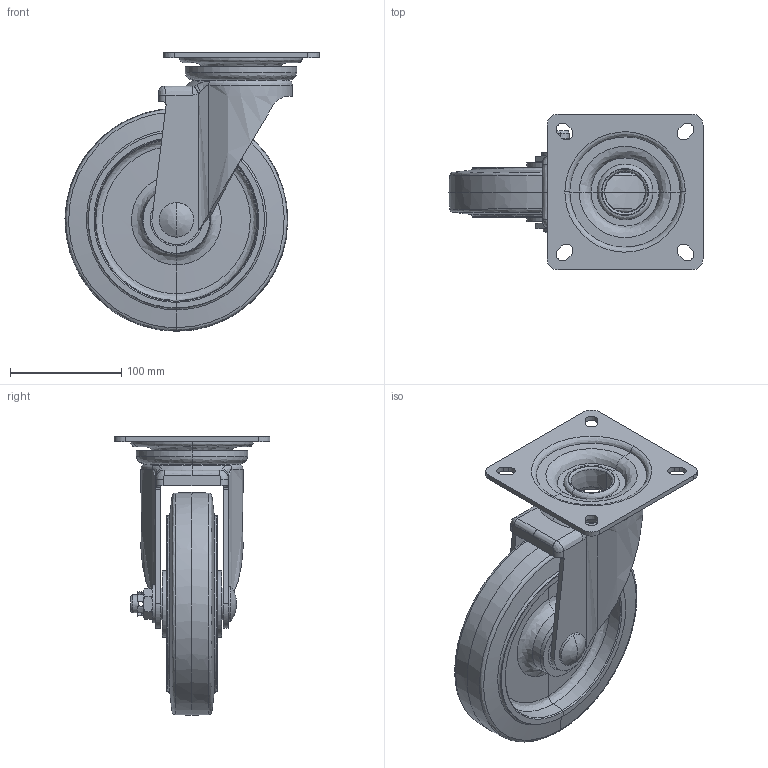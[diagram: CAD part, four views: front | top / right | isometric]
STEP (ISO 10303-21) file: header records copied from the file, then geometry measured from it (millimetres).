
FILE_DESCRIPTION (( 'STEP AP203' ), '1' );
FILE_NAME ('TR-200AWJ-ALL.STEP', '2021-06-14T22:38:07', ( '' ), ( '' ), 'SwSTEP 2.0', 'SolidWorks 2010', '' );
FILE_SCHEMA (( 'CONFIG_CONTROL_DESIGN' ));
Products named in the file (10): TR-200AWJ-ALL; TR-200AWJ-10; TR-200AWJ-11; TR-200AWJ-12; TR-200AWJ-13; TR-200AWJ-14; TR-200AWJ-15; TR-200AWJ-16; TR-200AWJ-17; TR-200AWJ-18
Assembly tree (9 placements, depth 2):
  TR-200AWJ-ALL
    TR-200AWJ-12
    TR-200AWJ-17
    TR-200AWJ-11
    TR-200AWJ-14
    TR-200AWJ-15
    TR-200AWJ-13
    TR-200AWJ-18
    TR-200AWJ-10
    TR-200AWJ-16
Bounding box: 228 x 140 x 250 mm (x, y, z)
Volume: 1100521.9 mm3; surface area: 314087.8 mm2
Topology: 11 solids, 11 shells, 383 faces, 908 edges, 533 vertices
Faces by surface type: bspline 317, plane 66
Entity records: 57657 total; most frequent: CARTESIAN_POINT 50346, ORIENTED_EDGE 1812, EDGE_CURVE 906, B_SPLINE_CURVE_WITH_KNOTS 766, VERTEX_POINT 533, EDGE_LOOP 405, ADVANCED_FACE 383, FACE_OUTER_BOUND 383
